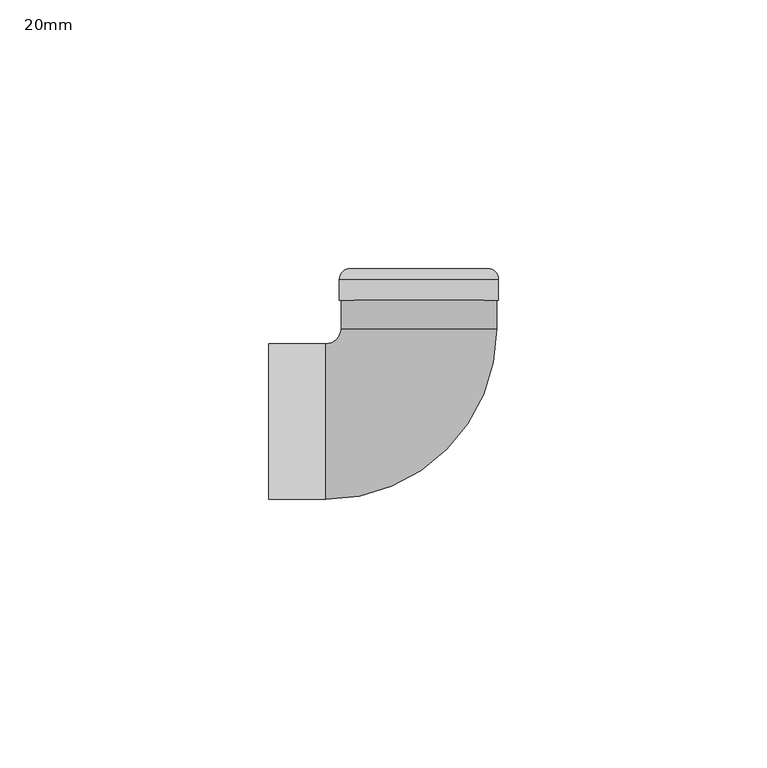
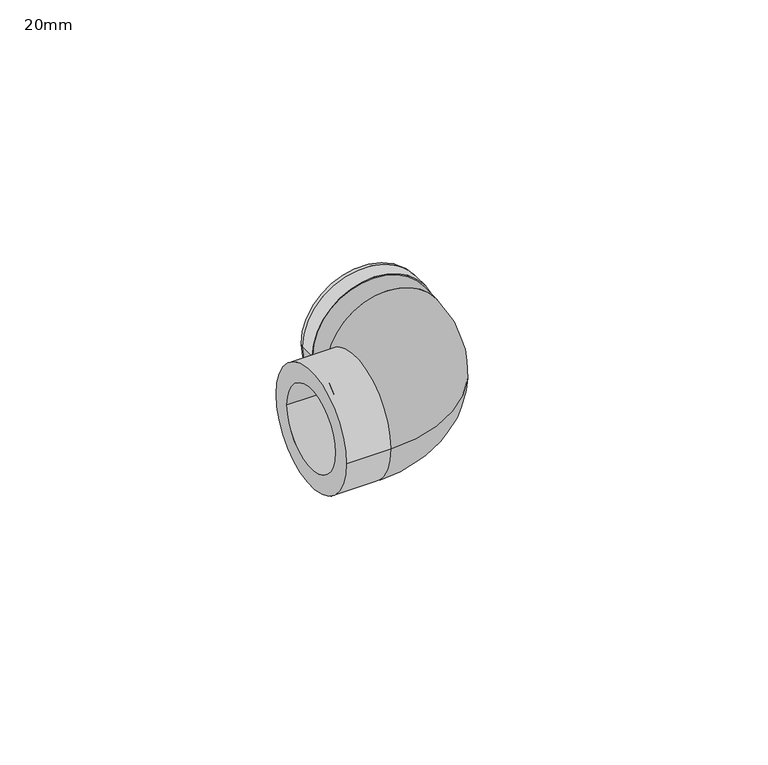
"""IFC4 building model written with IfcOpenShell, lengths in millimetres: pipe fitting geometry, Durapipe_PipeFitting_PVC_PlainThreadedElbows90Deg : 20mm."""

from ifc_helpers import new_model, si_unit, point, frame, origin, place, context, project, spatial, polyline, circle_curve, ellipse_curve, trimmed, source, transform, mapped, element, save
from ifc_brep_helpers import plane_surface, cylinder_surface, revolved_surface, advanced_brep


def pipe_fitting_20mm_7dde9f8e(model_context):
    return source(origin(), model_context, "Body", "AdvancedBrep", [
        advanced_brep(
        [(-14.5, 22.6, 0.0), (14.5, 22.6, 0.0), (10.0, 22.6, 0.0), (-10.0, 22.6, 0.0), (-28.0, 14.5, 0.0), (-28.0, -14.5, 0.0), (-28.0, 10.0, 0.0), (-28.0, -10.0, 0.0), (-14.5, 17.3, 0.0), (14.5, 17.3, 0.0), (-17.3, 14.5, 0.0), (-17.3, -14.5, 0.0), (-12.0, -10.0, 0.0), (-12.0, 10.0, 0.0), (-10.0, 11.0, 0.0), (10.0, 11.0, 0.0)],
        [
            (0, 1, circle_curve(frame((0.0, 22.6, 0.0), z_axis=(0.0, 1.0, 0.0), x_axis=(1.0, 0.0, 0.0)), 14.5)),
            (1, 0, circle_curve(frame((0.0, 22.6, 0.0), z_axis=(0.0, 1.0, 0.0), x_axis=(1.0, 0.0, 0.0)), 14.5)),
            (2, 3, circle_curve(frame((0.0, 22.6, 0.0), z_axis=(0.0, -1.0, 0.0), x_axis=(1.0, 0.0, 0.0)), 10.0)),
            (3, 2, circle_curve(frame((0.0, 22.6, 0.0), z_axis=(0.0, -1.0, 0.0), x_axis=(1.0, 0.0, 0.0)), 10.0)),
            (4, 5, circle_curve(frame((-28.0, 0.0, 0.0), z_axis=(-1.0, 0.0, 0.0), x_axis=(0.0, -1.0, 0.0)), 14.5)),
            (5, 4, circle_curve(frame((-28.0, 0.0, 0.0), z_axis=(-1.0, 0.0, 0.0), x_axis=(0.0, -1.0, 0.0)), 14.5)),
            (6, 7, circle_curve(frame((-28.0, 0.0, 0.0), z_axis=(1.0, 0.0, 0.0), x_axis=(0.0, 1.0, 0.0)), 10.0)),
            (7, 6, circle_curve(frame((-28.0, 0.0, 0.0), z_axis=(1.0, 0.0, 0.0), x_axis=(0.0, 1.0, 0.0)), 10.0)),
            (0, 8),
            (8, 9, circle_curve(frame((0.0, 17.3, 0.0), z_axis=(0.0, 1.0, 0.0), x_axis=(1.0, 0.0, 0.0)), 14.5)),
            (9, 1),
            (9, 8, circle_curve(frame((0.0, 17.3, 0.0), z_axis=(0.0, 1.0, 0.0), x_axis=(1.0, 0.0, 0.0)), 14.5)),
            (8, 10, circle_curve(frame((-17.3, 17.3, 0.0), z_axis=(0.0, 0.0, -1.0), x_axis=(1.0, 0.0, 0.0)), 2.8)),
            (10, 11, circle_curve(frame((-17.3, 0.0, 0.0), z_axis=(1.0, 0.0, 0.0), x_axis=(0.0, -1.0, 0.0)), 14.5)),
            (11, 9, circle_curve(frame((-17.3, 17.3, 0.0), z_axis=(0.0, 0.0, 1.0), x_axis=(1.0, 0.0, 0.0)), 31.8)),
            (11, 10, circle_curve(frame((-17.3, 0.0, 0.0), z_axis=(1.0, 0.0, 0.0), x_axis=(0.0, -1.0, 0.0)), 14.5)),
            (5, 11),
            (10, 4),
            (12, 13, circle_curve(frame((-12.0, 0.0, 0.0), z_axis=(-1.0, 0.0, 0.0), x_axis=(0.0, 1.0, 0.0)), 10.0)),
            (13, 12, circle_curve(frame((-12.0, 0.0, 0.0), z_axis=(-1.0, 0.0, 0.0), x_axis=(0.0, 1.0, 0.0)), 10.0)),
            (12, 7),
            (6, 13),
            (14, 15, circle_curve(frame((0.0, 11.0, 0.0), z_axis=(0.0, 1.0, 0.0), x_axis=(1.0, 0.0, 0.0)), 10.0)),
            (15, 14, circle_curve(frame((0.0, 11.0, 0.0), z_axis=(0.0, 1.0, 0.0), x_axis=(1.0, 0.0, 0.0)), 10.0)),
            (14, 3),
            (2, 15),
        ],
        [
            plane_surface(frame((0.0, 22.6, 0.0), z_axis=(0.0, 1.0, 0.0), x_axis=(0.0, 0.0, 1.0))),
            plane_surface(frame((-28.0, 0.0, 0.0), z_axis=(-1.0, 0.0, 0.0), x_axis=(0.0, 0.0, 1.0))),
            cylinder_surface(frame((0.0, 22.6, 0.0), z_axis=(0.0, 1.0, 0.0), x_axis=(1.0, 0.0, 0.0)), 14.5),
            revolved_surface(trimmed(ellipse_curve(frame((0.0, 17.3, 0.0), z_axis=(0.0, 1.0, 0.0), x_axis=(1.0, 0.0, 0.0)), 14.5, 14.5), [point((-14.5, 17.3, 0.0))], [point((14.5, 17.3, 0.0))], True, "CARTESIAN"), (-17.3, 17.3, 0.0), (0.0, 0.0, -1.0)),
            revolved_surface(trimmed(ellipse_curve(frame((0.0, 17.3, 0.0), z_axis=(0.0, 1.0, 0.0), x_axis=(1.0, 0.0, 0.0)), 14.5, 14.5), [point((14.5, 17.3, 0.0))], [point((-14.5, 17.3, 0.0))], True, "CARTESIAN"), (-17.3, 17.3, 0.0), (0.0, 0.0, -1.0)),
            cylinder_surface(frame((-17.3, 0.0, 0.0), z_axis=(1.0, 0.0, 0.0), x_axis=(0.0, -1.0, 0.0)), 14.5),
            plane_surface(frame((-12.0, 0.0, 0.0), z_axis=(-1.0, 0.0, 0.0), x_axis=(0.0, 0.0, 1.0))),
            revolved_surface(polyline([(-28.0, 10.0, 0.0), (-12.0, 10.0, 0.0)]), (-28.0, 0.0, 0.0), (-1.0, 0.0, 0.0)),
            plane_surface(frame((0.0, 11.0, 0.0), z_axis=(0.0, 1.0, 0.0), x_axis=(0.0, 0.0, 1.0))),
            revolved_surface(polyline([(10.0, 22.6, 0.0), (10.0, 11.0, 0.0)]), (0.0, 28.5, 0.0), (0.0, 1.0, 0.0)),
        ],
        [
            (0, [[1, 2], [3, 4]]),
            (1, [[5, 6], [7, 8]]),
            (2, [[-1, 9, 10, 11]]),
            (2, [[-2, -11, 12, -9]]),
            (3, [[-10, 13, 14, 15]]),
            (4, [[-12, -15, 16, -13]]),
            (5, [[-6, 17, -14, 18]]),
            (5, [[-5, -18, -16, -17]]),
            (6, [[19, 20]]),
            (7, [[-19, 21, -7, 22]]),
            (7, [[-20, -22, -8, -21]]),
            (8, [[23, 24]]),
            (9, [[-23, 25, -3, 26]]),
            (9, [[-24, -26, -4, -25]]),
        ],
    ),
        advanced_brep(
        [(12.7754699, 28.5, 0.0), (-12.7754699, 28.5, 0.0), (-10.0, 28.5, 0.0), (10.0, 28.5, 0.0), (14.8, 26.4754699, 0.0), (-14.8, 26.4754699, 0.0), (14.8, 22.6, 0.0), (-14.8, 22.6, 0.0), (10.0, 22.6, 0.0), (-10.0, 22.6, 0.0)],
        [
            (0, 1, circle_curve(frame((0.0, 28.5, 0.0), z_axis=(0.0, 1.0, 0.0), x_axis=(-1.0, 0.0, 0.0)), 12.7754699)),
            (1, 2),
            (2, 3, circle_curve(frame((0.0, 28.5, 0.0), z_axis=(0.0, -1.0, 0.0), x_axis=(-1.0, 0.0, 0.0)), 10.0)),
            (3, 0),
            (1, 0, circle_curve(frame((0.0, 28.5, 0.0), z_axis=(0.0, 1.0, 0.0), x_axis=(-1.0, 0.0, 0.0)), 12.7754699)),
            (3, 2, circle_curve(frame((0.0, 28.5, 0.0), z_axis=(0.0, -1.0, 0.0), x_axis=(-1.0, 0.0, 0.0)), 10.0)),
            (4, 5, circle_curve(frame((0.0, 26.4754699, 0.0), z_axis=(0.0, 1.0, 0.0), x_axis=(-1.0, 0.0, 0.0)), 14.8)),
            (5, 1, circle_curve(frame((-12.7754699, 26.4754699, 0.0), z_axis=(0.0, 0.0, -1.0), x_axis=(1.0, 0.0, 0.0)), 2.0245301)),
            (0, 4, circle_curve(frame((12.7754699, 26.4754699, 0.0), z_axis=(0.0, 0.0, -1.0), x_axis=(-1.0, 0.0, 0.0)), 2.0245301)),
            (5, 4, circle_curve(frame((0.0, 26.4754699, 0.0), z_axis=(0.0, 1.0, 0.0), x_axis=(-1.0, 0.0, 0.0)), 14.8)),
            (6, 7, circle_curve(frame((0.0, 22.6, 0.0), z_axis=(0.0, 1.0, 0.0), x_axis=(-1.0, 0.0, 0.0)), 14.8)),
            (7, 5),
            (4, 6),
            (7, 6, circle_curve(frame((0.0, 22.6, 0.0), z_axis=(0.0, 1.0, 0.0), x_axis=(-1.0, 0.0, 0.0)), 14.8)),
            (8, 9, circle_curve(frame((0.0, 22.6, 0.0), z_axis=(0.0, 1.0, 0.0), x_axis=(-1.0, 0.0, 0.0)), 10.0)),
            (9, 7),
            (6, 8),
            (9, 8, circle_curve(frame((0.0, 22.6, 0.0), z_axis=(0.0, 1.0, 0.0), x_axis=(-1.0, 0.0, 0.0)), 10.0)),
            (2, 9),
            (8, 3),
        ],
        [
            plane_surface(frame((0.0, 28.5, 0.0), z_axis=(0.0, 1.0, 0.0), x_axis=(-1.0, 0.0, 0.0))),
            revolved_surface(trimmed(ellipse_curve(frame((-12.7754699, 26.4754699, 0.0), z_axis=(0.0, 0.0, 1.0), x_axis=(1.0, 0.0, 0.0)), 2.0245301, 2.0245301), [point((-12.7754699, 28.5, 0.0))], [point((-14.8, 26.4754699, 0.0))], True, "CARTESIAN"), (0.0, 41.2371208, 0.0), (0.0, -1.0, 0.0)),
            cylinder_surface(frame((0.0, 41.2371208, 0.0), z_axis=(0.0, -1.0, 0.0), x_axis=(-1.0, 0.0, 0.0)), 14.8),
            plane_surface(frame((0.0, 22.6, 0.0), z_axis=(0.0, -1.0, 0.0), x_axis=(-1.0, 0.0, 0.0))),
            revolved_surface(polyline([(-10.0, 22.6, 0.0), (-10.0, 28.5, 0.0)]), (0.0, 41.2371208, 0.0), (0.0, -1.0, 0.0)),
        ],
        [
            (0, [[1, 2, 3, 4]]),
            (0, [[5, -4, 6, -2]]),
            (1, [[7, 8, -1, 9]]),
            (1, [[10, -9, -5, -8]]),
            (2, [[11, 12, -7, 13]]),
            (2, [[14, -13, -10, -12]]),
            (3, [[15, 16, -11, 17]]),
            (3, [[18, -17, -14, -16]]),
            (4, [[-3, 19, -15, 20]]),
            (4, [[-6, -20, -18, -19]]),
        ],
    ),
    ])


if __name__ == "__main__":
    model = new_model("IFC4")
    model_context = context("Model", 3, world=origin())
    ifc_project = project(units=[si_unit("LENGTHUNIT", "METRE", prefix="MILLI")], contexts=[model_context])
    site = spatial("IfcSite", under=ifc_project)
    building = spatial("IfcBuilding", under=site)
    placement = place(None, origin())
    pipe_fitting_20mm_shape = pipe_fitting_20mm_7dde9f8e(model_context)
    element("IfcPipeFitting", 1, ObjectType="Durapipe_PipeFitting_PVC_PlainThreadedElbows90Deg : 20mm", at=placement, inside=building, context=model_context, shape_type="MappedRepresentation", body=[
        mapped(pipe_fitting_20mm_shape, transform((0.0, 0.0, 0.0), x_axis=(1.0, 0.0, 0.0), y_axis=(0.0, 1.0, 0.0), z_axis=(0.0, 0.0, 1.0))),
    ])
    save(model, "model.ifc")
